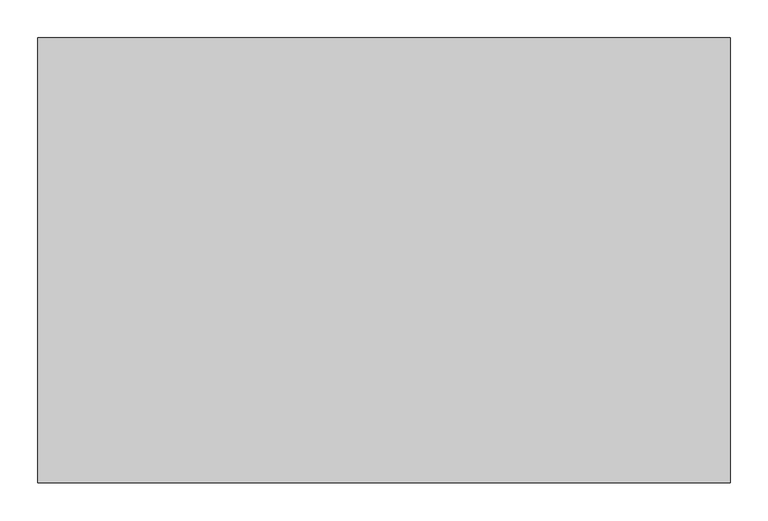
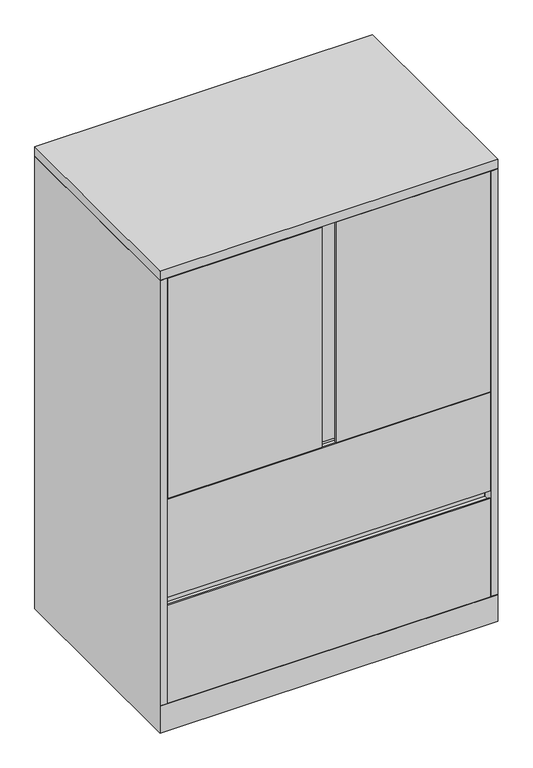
"""IFC4 building model written with IfcOpenShell, lengths in millimetres: furniture geometry, Steelcase - Universal Storage - Cabinet - Combination - Flush Steel : 52H - 2 Drawers - 23 1/8D x 36W."""

from ifc_helpers import new_model, si_unit, frame, origin, place, context, project, spatial, polyline, outline, extrude, faceted_brep, source, transform, mapped, element, save


def furniture_f9192ff1(model_context):
    return source(origin(), model_context, "Body", "SolidModel", [
        extrude(outline(polyline([(21.8068168, -561.975866), (893.572, -561.975866), (893.572, -587.502), (476.25, -587.502), (476.25, -583.185482), (489.4189152, -583.185482), (489.4189152, -568.3258781), (438.15, -568.3258781), (438.15, -587.502), (21.8068168, -587.502), (21.8068168, -561.975866)])), frame((0.0, 0.0, 663.956), z_axis=(0.0, 0.0, 1.0), x_axis=(1.0, 0.0, 0.0)), (0.0, 0.0, 1.0), 629.92),
        extrude(outline(polyline([(914.4, 0.0), (914.4, -587.502), (0.0, -587.502), (0.0, 0.0), (914.4, 0.0)])), frame((0.0, 0.0, 1295.3999516), z_axis=(0.0, 0.0, 1.0), x_axis=(1.0, 0.0, 0.0)), (0.0, 0.0, 1.0), 25.4000484),
        extrude(outline(polyline([(-587.502, 358.7750484), (-584.3262491, 358.7750484), (-584.3262491, 349.2500484), (-561.975866, 349.2500484), (-561.975866, 381.0), (-560.4518674, 381.0), (-560.4518674, 349.2500484), (-560.4518674, 77.724), (-587.502, 77.724), (-587.502, 358.7750484)])), frame((20.8280006, 0.0, 0.0), z_axis=(1.0, 0.0, 0.0), x_axis=(0.0, 1.0, 0.0)), (0.0, 0.0, 1.0), 872.7439994),
        extrude(outline(polyline([(889.0000242, -25.4000008), (889.0000242, -560.4518674), (25.4000008, -560.4518674), (25.4000008, -25.4000008), (889.0000242, -25.4000008)])), frame((0.0, 0.0, 965.3270484), z_axis=(0.0, 0.0, 1.0), x_axis=(1.0, 0.0, 0.0)), (0.0, 0.0, 1.0), 22.2249516),
        extrude(outline(polyline([(-587.502, 662.0510484), (-584.3262491, 662.0510484), (-584.3262491, 652.5260484), (-561.975866, 652.5260484), (-561.975866, 684.276), (-560.4518674, 684.276), (-560.4518674, 652.5260484), (-560.4518674, 381.0), (-587.502, 381.0), (-587.502, 662.0510484)])), frame((20.8280006, 0.0, 0.0), z_axis=(1.0, 0.0, 0.0), x_axis=(0.0, 1.0, 0.0)), (0.0, 0.0, 1.0), 872.7439994),
        extrude(outline(polyline([(889.0000242, -25.4000008), (889.0000242, -560.4518674), (25.4000008, -560.4518674), (25.4000008, -25.4000008), (889.0000242, -25.4000008)])), frame((0.0, 0.0, 662.0510484), z_axis=(0.0, 0.0, 1.0), x_axis=(1.0, 0.0, 0.0)), (0.0, 0.0, 1.0), 22.2249516),
        faceted_brep([(914.4, 0.0, 0.0), (914.4, -587.502, 0.0), (0.0, -587.502, 0.0), (0.0, 0.0, 0.0), (0.0, 0.0, 1293.876), (914.4, 0.0, 1293.876), (0.0, -587.502, 76.2), (0.0, -587.502, 77.724), (0.0, -587.502, 1293.876), (914.4, -587.502, 76.2), (914.4, -587.502, 1293.876), (914.4, -587.502, 77.724), (889.0000242, -25.4000008, 1293.876), (889.0000242, -560.4518674, 1293.876), (893.572, -560.4518674, 1293.876), (893.572, -561.9758781, 1293.876), (895.096, -561.9758781, 1293.876), (895.096, -587.502, 1293.876), (19.304, -587.502, 1293.876), (19.304, -561.975866, 1293.876), (20.8280006, -561.975866, 1293.876), (20.8280006, -560.4518674, 1293.876), (25.4000008, -560.4518674, 1293.876), (25.4000008, -25.4000008, 1293.876), (19.304, -587.502, 77.724), (19.304, -568.198, 77.724), (895.096, -587.502, 77.724), (895.096, -568.0718418, 77.724), (889.0000242, -25.4000008, 77.724), (889.0000242, -560.4518674, 77.724), (893.572, -560.4518674, 77.724), (893.572, -561.9758781, 77.724), (895.096, -561.9758781, 77.724), (19.304, -561.975866, 77.724), (20.8280006, -561.975866, 77.724), (20.8280006, -560.4518674, 77.724), (25.4000008, -560.4518674, 77.724), (25.4000008, -25.4000008, 77.724), (25.526134, -561.975866, 77.724), (889.0000242, -561.975866, 77.724)], [[[0, 1, 2, 3]], [[0, 3, 4, 5]], [[4, 3, 2, 6, 7, 8]], [[2, 1, 9, 6]], [[1, 0, 5, 10, 11, 9]], [[12, 13, 14, 15, 16, 17, 10, 5, 4, 8, 18, 19, 20, 21, 22, 23]], [[24, 7, 25]], [[11, 26, 27]], [[13, 12, 28, 29]], [[14, 13, 29, 30]], [[15, 14, 30, 31]], [[16, 15, 31, 32]], [[17, 16, 32, 27, 26]], [[10, 17, 26, 11]], [[18, 8, 7, 24]], [[19, 18, 24, 25, 33]], [[20, 19, 33, 34]], [[21, 20, 34, 35]], [[22, 21, 35, 36]], [[23, 22, 36, 37]], [[12, 23, 37, 28]], [[38, 39, 27, 32, 31, 30, 29, 28, 37, 36, 35, 34, 33, 25]], [[7, 6, 38, 25]], [[39, 38, 6, 9]], [[39, 9, 11, 27]]]),
    ])


if __name__ == "__main__":
    model = new_model("IFC4")
    model_context = context("Model", 3, world=origin())
    ifc_project = project(units=[si_unit("LENGTHUNIT", "METRE", prefix="MILLI")], contexts=[model_context])
    site = spatial("IfcSite", under=ifc_project)
    building = spatial("IfcBuilding", under=site)
    placement = place(None, origin())
    furniture_shape = furniture_f9192ff1(model_context)
    element("IfcFurniture", 1, ObjectType="Steelcase - Universal Storage - Cabinet - Combination - Flush Steel : 52H - 2 Drawers - 23 1/8D x 36W", at=placement, inside=building, context=model_context, shape_type="MappedRepresentation", body=[
        mapped(furniture_shape, transform((0.0, 0.0, 0.0), x_axis=(1.0, 0.0, 0.0), y_axis=(0.0, 1.0, 0.0), z_axis=(0.0, 0.0, 1.0))),
    ])
    save(model, "model.ifc")
